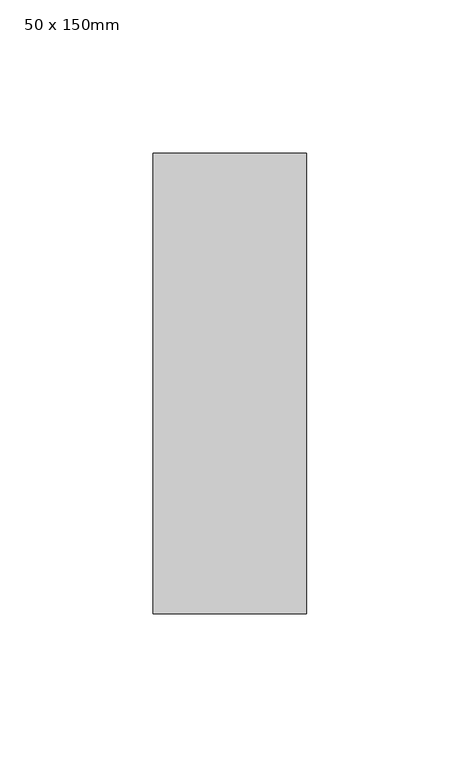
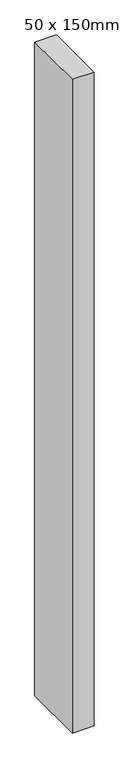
"""IFC4 building model written with IfcOpenShell, lengths in millimetres: member geometry, 矩形竖梃 : 50 x 150mm."""

from ifc_helpers import new_model, si_unit, frame, origin, place, context, project, spatial, polyline, outline, extrude, source, transform, mapped, element, save


def member_50_x_150mm_d558323d(model_context):
    return source(origin(), model_context, "Body", "SweptSolid", [
        extrude(outline(polyline([(25.0, 75.0), (25.0, -75.0), (-25.0, -75.0), (-25.0, 75.0), (25.0, 75.0)])), frame((0.0, 0.0, -1591.6666667), z_axis=(0.0, 0.0, 1.0), x_axis=(1.0, 0.0, 0.0)), (0.0, 0.0, 1.0), 1591.6666667),
    ])


if __name__ == "__main__":
    model = new_model("IFC4")
    model_context = context("Model", 3, world=origin())
    ifc_project = project(units=[si_unit("LENGTHUNIT", "METRE", prefix="MILLI")], contexts=[model_context])
    site = spatial("IfcSite", under=ifc_project)
    building = spatial("IfcBuilding", under=site)
    placement = place(None, origin())
    member_50_x_150mm_shape = member_50_x_150mm_d558323d(model_context)
    element("IfcMember", 1, ObjectType="矩形竖梃 : 50 x 150mm", at=placement, inside=building, context=model_context, shape_type="MappedRepresentation", body=[
        mapped(member_50_x_150mm_shape, transform((0.0, 0.0, 0.0), x_axis=(1.0, 0.0, 0.0), y_axis=(0.0, 1.0, 0.0), z_axis=(0.0, 0.0, 1.0))),
    ])
    save(model, "model.ifc")
